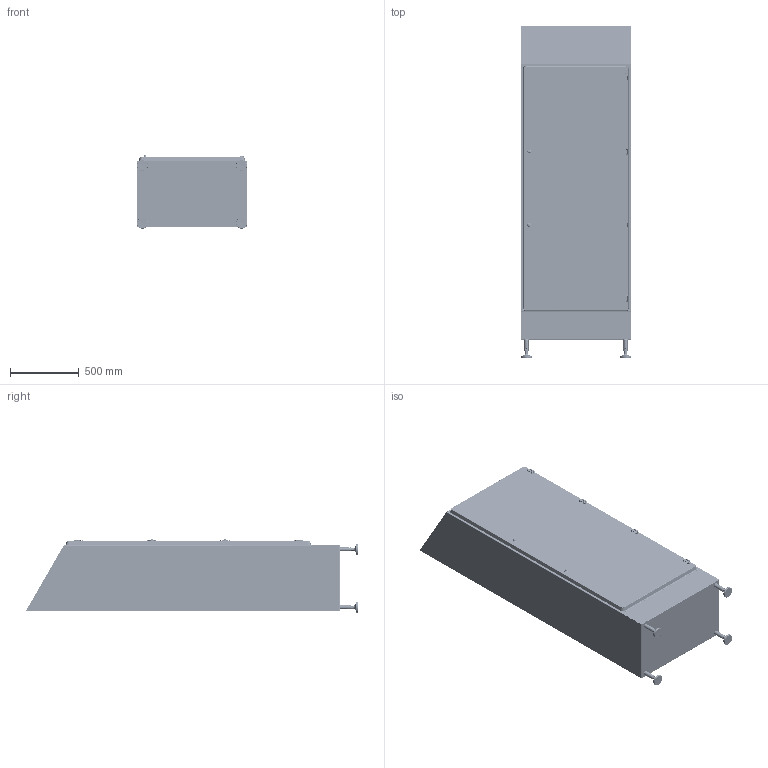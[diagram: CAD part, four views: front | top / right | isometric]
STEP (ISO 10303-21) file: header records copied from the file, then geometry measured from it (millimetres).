
FILE_DESCRIPTION (( 'STEP AP214' ), '1' );
FILE_NAME ('AY0801800500034.STEP', '2025-11-06T07:35:50', ( '' ), ( '' ), 'SwSTEP 2.0', 'SolidWorks 2021', '' );
FILE_SCHEMA (( 'AUTOMOTIVE_DESIGN' ));
Length unit declared in the file: millimetre
Products named in the file (73): 1049-U7_HY. H.1600; 1890865; 9ASASPA025299ASASPA02529_VISTA CON GUARNIZIONE; 0133721340; 9ASASZO01187; None_2; 1890900; 9SAAS1TU00005; 1611020_standard; 9ASASSP01439; 18200023_HY. H.1800; 9ASASMI00009; 1642018; 1049-08; 1611404_standard; 18100093_SENZA LINGUETTE; 18300022; 9SAAS1SV00029; 11005040; 99MS00102_HY STD; AS.HY_EKO.HY_ASSIEME_CERNIERA_PORTA; 0134793030; 9SAEKOMI00003_PORTA; 1611006 _standard; 16020108040_standard; 18200021; 16011106012_standard; 013285270; Cicatron_M6x20; 9SAASMI00020_SINISTRA INFERIORE; 9SAASSV00005_BOCCOLA; 9ASASSP01487; 9ASAS1DI00066; AYFD1800500001; 9SAASMI00021_DESTRA INFERIORE; 9ASAS1TU00008_Default<Lavorato>; AYMT08180500002; 0134793200; 9ASASSP01491; 1000-80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
Assembly tree (137 placements, depth 6):
  AY0801800500034
    AYAM08180500002
      AYMT08180500002
      AYFS1800500001
      AYFD1800500001
      AYFO08005000001
      9SAASMI00020_SINISTRA INFERIORE
        0134793040
        9ASASSP01487
        9SAASSV00005_BOCCOLA  x2
          1890900
          11005040
          1611016_standard
        9SASSMI00002
          16020108025_standard
          1612008 _standard  x2
          1642018
      9SAASMI00021_DESTRA INFERIORE
        0134793030
        9ASASSP01487
        9SASSMI00002
          16020108025_standard
          1612008 _standard  x2
          1642018
        9SAASSV00005_BOCCOLA  x2
          1890900
          11005040
          1611016_standard
      9SAAS1SV00029
        9ASASSP01437
        9ASASSP01434  x2
        9SASSMI00002  x2
          16020108025_standard
          1612008 _standard
          1642018
        0134793200
    0134720040
      0133721340
      1890920  x2
      16011106012_standard  x4
      1641006  x4
      1611006 _standard  x4
    9SAASPA00092
      9ASASPA025299ASASPA02529_VISTA CON GUARNIZIONE
      18100093_SENZA LINGUETTE  x2
        None
        None_2
      18200020  x2
        1000-B25
          1000-80
          1000-67  x2
        D6799
      18200021  x2
        1000-105
        D933
      18300022  x4
        1001-U12
        DIN917_M6
      18200023_HY. H.1800  x2
        1049-U7_HY. H.1600
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Bounding box: 802 x 2412.3 x 532.8 mm (x, y, z)
Volume: 17352258 mm3; surface area: 19751821.3 mm2
Topology: 208 solids, 222 shells, 14845 faces, 36490 edges, 21543 vertices
Faces by surface type: cylinder 5504, plane 4180, torus 2344, bspline 1793, sphere 660, cone 364
Entity records: 214625 total; most frequent: CARTESIAN_POINT 74831, ORIENTED_EDGE 26952, DIRECTION 26240, EDGE_CURVE 13480, AXIS2_PLACEMENT_3D 9839, VERTEX_POINT 8187, LINE 6562, VECTOR 6562
